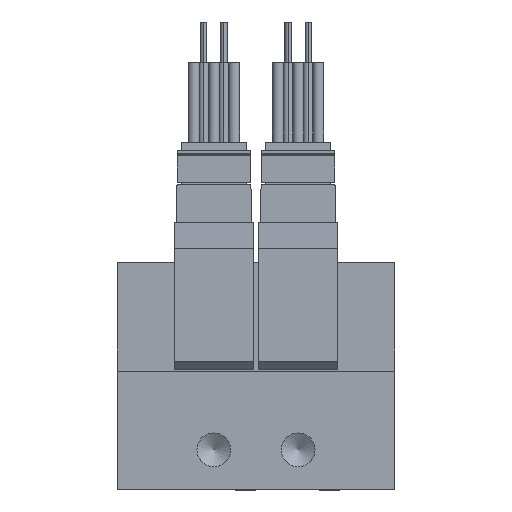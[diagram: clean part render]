
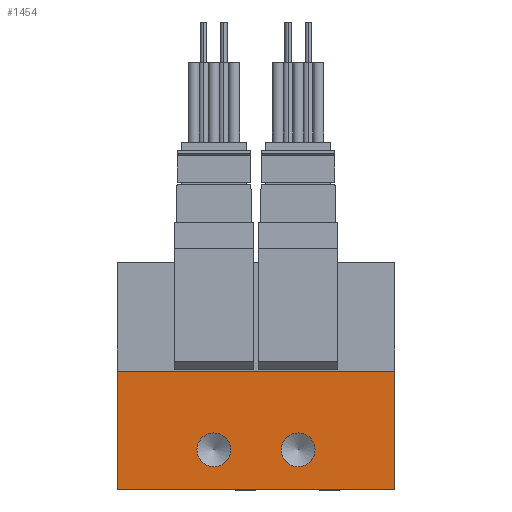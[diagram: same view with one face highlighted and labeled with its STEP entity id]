
A CAD part, front view. The second image highlights one B-rep face of the part: STEP entity #1454.
In plain terms, the highlighted planar face has unit normal (0, -1, 0).
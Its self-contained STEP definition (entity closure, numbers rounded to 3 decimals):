
#1454=ADVANCED_FACE('',(#2292,#2293,#2294),#2295,.F.);
#2292=FACE_BOUND('',#4034,.T.);
#2293=FACE_BOUND('',#4035,.T.);
#2294=FACE_OUTER_BOUND('',#4036,.T.);
#2295=PLANE('',#4037);
#4034=EDGE_LOOP('',(#6244));
#4035=EDGE_LOOP('',(#6245));
#4036=EDGE_LOOP('',(#6246,#6247,#6248,#6249));
#4037=AXIS2_PLACEMENT_3D('',#6250,#6251,#6252);
#6244=ORIENTED_EDGE('',*,*,#12778,.F.);
#6245=ORIENTED_EDGE('',*,*,#12799,.F.);
#6246=ORIENTED_EDGE('',*,*,#12800,.F.);
#6247=ORIENTED_EDGE('',*,*,#12801,.F.);
#6248=ORIENTED_EDGE('',*,*,#12802,.T.);
#6249=ORIENTED_EDGE('',*,*,#12797,.T.);
#6250=CARTESIAN_POINT('',(-34.5,0.,14.8));
#6251=DIRECTION('',(0.0,1.0,0.));
#6252=DIRECTION('',(0.0,0.,1.0));
#12778=EDGE_CURVE('',#14904,#14904,#14905,.T.);
#12797=EDGE_CURVE('',#14939,#14937,#14940,.T.);
#12799=EDGE_CURVE('',#14942,#14942,#14943,.T.);
#12800=EDGE_CURVE('',#14944,#14937,#14945,.T.);
#12801=EDGE_CURVE('',#14946,#14944,#14947,.T.);
#12802=EDGE_CURVE('',#14946,#14939,#14948,.T.);
#14904=VERTEX_POINT('',#18506);
#14905=CIRCLE('',#18507,2.1);
#14937=VERTEX_POINT('',#18552);
#14939=VERTEX_POINT('',#18555);
#14940=LINE('',#18556,#18557);
#14942=VERTEX_POINT('',#18560);
#14943=CIRCLE('',#18561,2.1);
#14944=VERTEX_POINT('',#18562);
#14945=LINE('',#18563,#18564);
#14946=VERTEX_POINT('',#18565);
#14947=LINE('',#18566,#18567);
#14948=LINE('',#18568,#18569);
#18506=CARTESIAN_POINT('',(-22.5,0.,2.9));
#18507=AXIS2_PLACEMENT_3D('',#23659,#23660,#23661);
#18552=CARTESIAN_POINT('',(0.0,0.0,0.0));
#18555=CARTESIAN_POINT('',(-34.5,0.0,0.0));
#18556=CARTESIAN_POINT('',(-34.5,0.0,0.0));
#18557=VECTOR('',#23688,1.0);
#18560=CARTESIAN_POINT('',(-12.0,0.,2.9));
#18561=AXIS2_PLACEMENT_3D('',#23690,#23691,#23692);
#18562=CARTESIAN_POINT('',(0.0,0.,14.8));
#18563=CARTESIAN_POINT('',(0.0,0.,14.8));
#18564=VECTOR('',#23693,1.0);
#18565=CARTESIAN_POINT('',(-34.5,0.,14.8));
#18566=CARTESIAN_POINT('',(-34.5,0.,14.8));
#18567=VECTOR('',#23694,1.0);
#18568=CARTESIAN_POINT('',(-34.5,0.,14.8));
#18569=VECTOR('',#23695,1.0);
#23659=CARTESIAN_POINT('',(-22.5,0.0,5.0));
#23660=DIRECTION('',(0.0,-1.0,0.));
#23661=DIRECTION('',(0.0,0.,-1.0));
#23688=DIRECTION('',(1.0,0.0,0.0));
#23690=CARTESIAN_POINT('',(-12.0,0.0,5.0));
#23691=DIRECTION('',(0.0,-1.0,0.));
#23692=DIRECTION('',(0.0,0.,-1.0));
#23693=DIRECTION('',(0.0,0.,-1.0));
#23694=DIRECTION('',(1.0,0.0,0.0));
#23695=DIRECTION('',(0.0,0.,-1.0));
